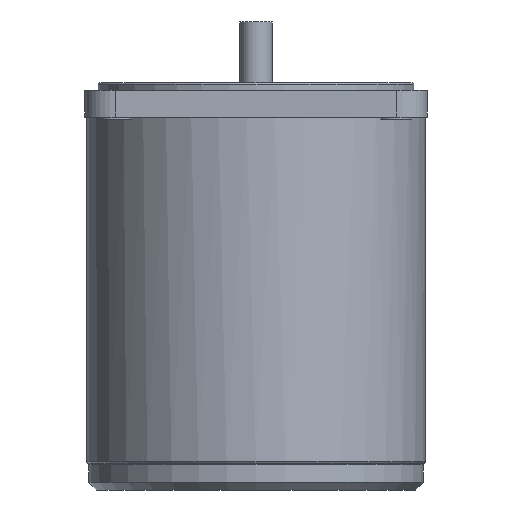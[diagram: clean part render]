
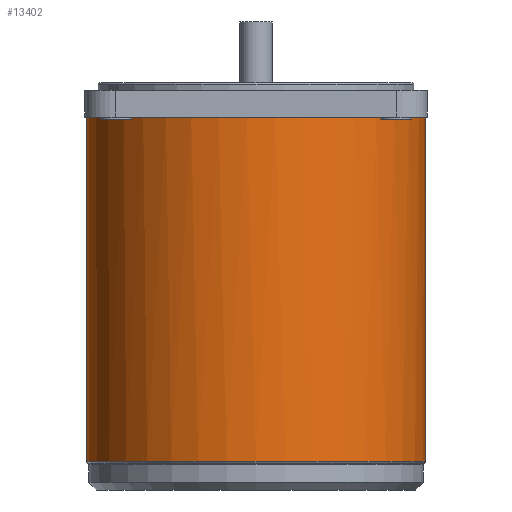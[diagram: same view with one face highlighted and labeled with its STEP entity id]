
A CAD part, front view. The second image highlights one B-rep face of the part: STEP entity #13402.
In plain terms, the highlighted cylindrical face has radius 44.5 mm (diameter 89 mm), a full revolution.
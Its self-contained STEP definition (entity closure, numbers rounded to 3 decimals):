
#13132=CARTESIAN_POINT('',(27.689,34.836,98.0));
#13133=VERTEX_POINT('',#13132);
#13143=CARTESIAN_POINT('',(27.689,34.836,37.));
#13144=VERTEX_POINT('',#13143);
#13145=CARTESIAN_POINT('',(27.689,34.836,98.0));
#13146=DIRECTION('',(0.0,0.0,-1.0));
#13147=VECTOR('',#13146,61.);
#13148=LINE('',#13145,#13147);
#13149=EDGE_CURVE('',#13133,#13144,#13148,.T.);
#13200=CARTESIAN_POINT('',(26.7,35.6,36.0));
#13201=VERTEX_POINT('',#13200);
#13221=CARTESIAN_POINT('',(27.689,34.836,37.));
#13222=CARTESIAN_POINT('',(27.689,34.836,36.831));
#13223=CARTESIAN_POINT('',(27.597,34.909,36.495));
#13224=CARTESIAN_POINT('',(27.233,35.195,36.102));
#13225=CARTESIAN_POINT('',(26.9,35.45,36.0));
#13226=CARTESIAN_POINT('',(26.7,35.6,36.0));
#13227=B_SPLINE_CURVE_WITH_KNOTS('',3,(#13221,#13222,#13223,#13224,#13225,#13226),.UNSPECIFIED.,.F.,.U.,(4,1,1,4),(0.,0.051,0.101,0.177),.UNSPECIFIED.);
#13228=EDGE_CURVE('',#13144,#13201,#13227,.T.);
#13238=CARTESIAN_POINT('',(-26.7,35.6,36.0));
#13239=VERTEX_POINT('',#13238);
#13266=CARTESIAN_POINT('',(0.0,0.0,36.0));
#13267=DIRECTION('',(0.0,0.0,1.0));
#13268=DIRECTION('',(0.0,1.0,0.0));
#13269=AXIS2_PLACEMENT_3D('',#13266,#13267,#13268);
#13270=CIRCLE('',#13269,44.5);
#13271=EDGE_CURVE('',#13201,#13239,#13270,.T.);
#13307=CARTESIAN_POINT('',(-27.689,34.836,37.));
#13308=VERTEX_POINT('',#13307);
#13328=CARTESIAN_POINT('',(-26.7,35.6,36.0));
#13329=CARTESIAN_POINT('',(-26.967,35.399,36.));
#13330=CARTESIAN_POINT('',(-27.341,35.112,36.15));
#13331=CARTESIAN_POINT('',(-27.639,34.876,36.619));
#13332=CARTESIAN_POINT('',(-27.689,34.836,36.873));
#13333=CARTESIAN_POINT('',(-27.689,34.836,37.));
#13334=B_SPLINE_CURVE_WITH_KNOTS('',3,(#13328,#13329,#13330,#13331,#13332,#13333),.UNSPECIFIED.,.F.,.U.,(4,1,1,4),(0.,0.101,0.139,0.177),.UNSPECIFIED.);
#13335=EDGE_CURVE('',#13239,#13308,#13334,.T.);
#13347=CARTESIAN_POINT('',(-27.689,34.836,98.0));
#13348=VERTEX_POINT('',#13347);
#13363=CARTESIAN_POINT('',(-27.689,34.836,37.));
#13364=DIRECTION('',(0.0,0.0,1.0));
#13365=VECTOR('',#13364,61.);
#13366=LINE('',#13363,#13365);
#13367=EDGE_CURVE('',#13308,#13348,#13366,.T.);
#13372=CARTESIAN_POINT('',(0.0,0.0,0.0));
#13373=DIRECTION('',(0.0,0.0,1.0));
#13374=DIRECTION('',(-1.0,0.0,0.0));
#13375=AXIS2_PLACEMENT_3D('',#13372,#13373,#13374);
#13376=CYLINDRICAL_SURFACE('',#13375,44.5);
#13377=CARTESIAN_POINT('',(-44.5,0.,7.5));
#13378=VERTEX_POINT('',#13377);
#13379=CARTESIAN_POINT('',(0.0,0.0,7.5));
#13380=DIRECTION('',(0.0,0.0,-1.0));
#13381=DIRECTION('',(1.0,0.0,0.0));
#13382=AXIS2_PLACEMENT_3D('',#13379,#13380,#13381);
#13383=CIRCLE('',#13382,44.5);
#13384=EDGE_CURVE('',#13378,#13378,#13383,.T.);
#13385=ORIENTED_EDGE('',*,*,#13384,.F.);
#13386=EDGE_LOOP('',(#13385));
#13387=FACE_OUTER_BOUND('',#13386,.T.);
#13388=ORIENTED_EDGE('',*,*,#13367,.F.);
#13389=ORIENTED_EDGE('',*,*,#13335,.F.);
#13390=ORIENTED_EDGE('',*,*,#13271,.F.);
#13391=ORIENTED_EDGE('',*,*,#13228,.F.);
#13392=ORIENTED_EDGE('',*,*,#13149,.F.);
#13393=CARTESIAN_POINT('',(0.0,0.0,98.0));
#13394=DIRECTION('',(0.0,0.0,-1.0));
#13395=DIRECTION('',(-1.0,0.0,0.0));
#13396=AXIS2_PLACEMENT_3D('',#13393,#13394,#13395);
#13397=CIRCLE('',#13396,44.5);
#13398=EDGE_CURVE('',#13133,#13348,#13397,.T.);
#13399=ORIENTED_EDGE('',*,*,#13398,.T.);
#13400=EDGE_LOOP('',(#13388,#13389,#13390,#13391,#13392,#13399));
#13401=FACE_BOUND('',#13400,.T.);
#13402=ADVANCED_FACE('',(#13387,#13401),#13376,.T.);
